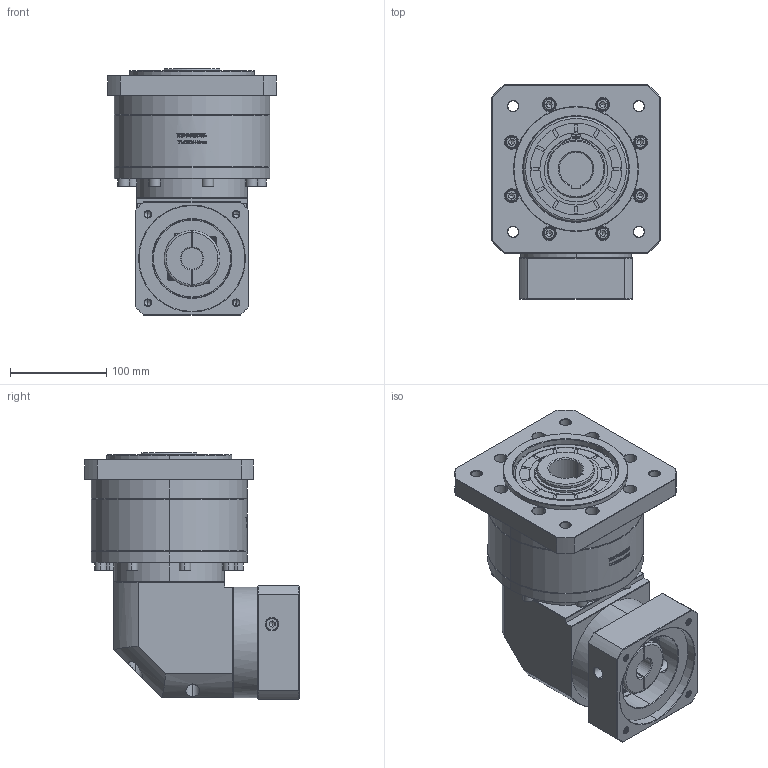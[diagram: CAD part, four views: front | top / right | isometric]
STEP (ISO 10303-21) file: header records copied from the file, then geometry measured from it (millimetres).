
FILE_DESCRIPTION (( 'STEP AP214' ), '1' );
FILE_NAME ('ZFR160A-K35-L2-22-110-130-M8.step', '2023-03-25T01:58:35', ( '' ), ( '' ), 'SwSTEP 2.0', 'SolidWorks 2016', '' );
FILE_SCHEMA (( 'AUTOMOTIVE_DESIGN' ));
Length unit declared in the file: millimetre
Products named in the file (1): ZFR160A-K35-L2-22-110-130-M8
Bounding box: 175 x 222.4 x 256.2 mm (x, y, z)
Volume: 4637509.2 mm3; surface area: 333827.8 mm2
Topology: 6 solids, 6 shells, 2725 faces, 7112 edges, 4559 vertices
Faces by surface type: plane 1366, bspline 491, cylinder 459, cone 365, torus 44
Entity records: 143633 total; most frequent: CARTESIAN_POINT 50876, ORIENTED_EDGE 14120, DIRECTION 11187, EDGE_CURVE 7060, VERTEX_POINT 4559, VECTOR 4443, LINE 4443, AXIS2_PLACEMENT_3D 3372
